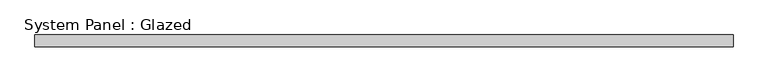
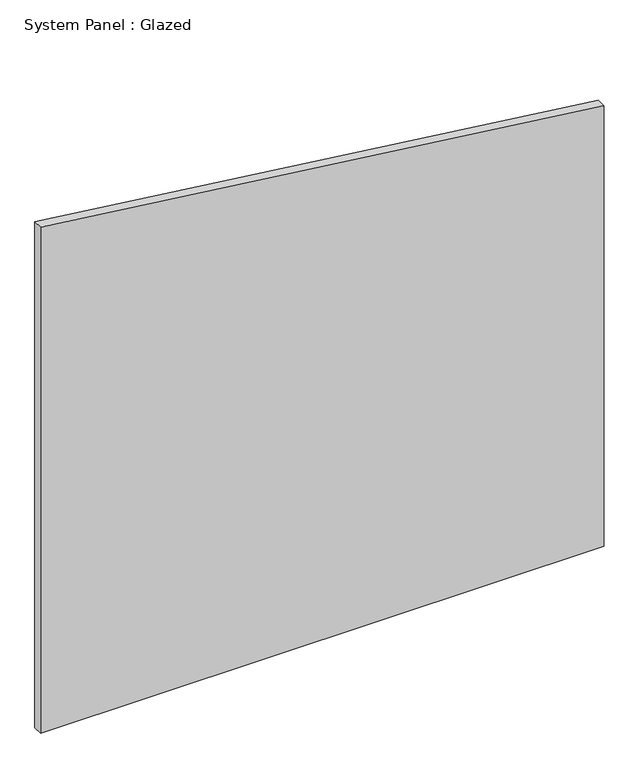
"""IFC4 building model written with IfcOpenShell, lengths in millimetres: plate geometry, System Panel : Glazed."""

from ifc_helpers import new_model, si_unit, frame, origin, place, context, project, spatial, polyline, outline, extrude, source, transform, mapped, element, save


def system_panel_glazed_0363fdee(model_context):
    return source(origin(), model_context, "Body", "SweptSolid", [
        extrude(outline(polyline([(0.0, -726.9631579), (0.0, 726.9631579), (1200.3006843, 726.9631579), (1378.8203885, -726.9631579), (0.0, -726.9631579)])), frame((0.0, 24.5, 0.0), z_axis=(0.0, 1.0, 0.0), x_axis=(0.0, 0.0, 1.0)), (0.0, 0.0, 1.0), 25.0),
    ])


if __name__ == "__main__":
    model = new_model("IFC4")
    model_context = context("Model", 3, world=origin())
    ifc_project = project(units=[si_unit("LENGTHUNIT", "METRE", prefix="MILLI")], contexts=[model_context])
    site = spatial("IfcSite", under=ifc_project)
    building = spatial("IfcBuilding", under=site)
    placement = place(None, origin())
    system_panel_glazed_shape = system_panel_glazed_0363fdee(model_context)
    element("IfcPlate", 1, ObjectType="System Panel : Glazed", at=placement, inside=building, context=model_context, shape_type="MappedRepresentation", body=[
        mapped(system_panel_glazed_shape, transform((0.0, 0.0, 0.0), x_axis=(1.0, 0.0, 0.0), y_axis=(0.0, 1.0, 0.0), z_axis=(0.0, 0.0, 1.0))),
    ])
    save(model, "model.ifc")
